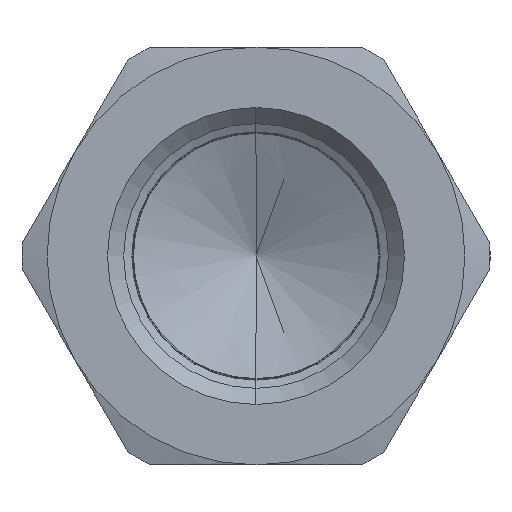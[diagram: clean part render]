
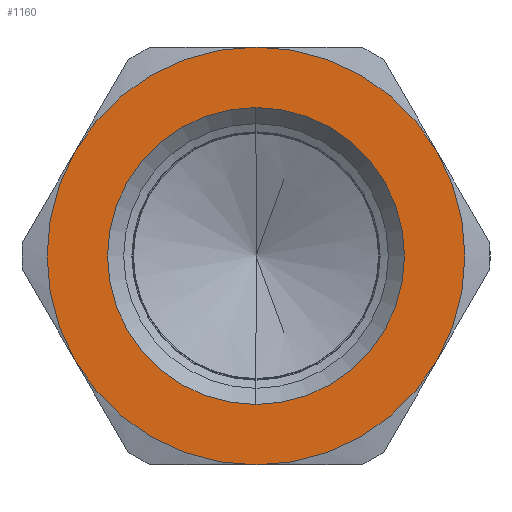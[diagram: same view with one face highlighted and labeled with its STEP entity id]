
A CAD part, left-side view. The second image highlights one B-rep face of the part: STEP entity #1160.
In plain terms, the highlighted planar face has unit normal (-1, 0, 0).
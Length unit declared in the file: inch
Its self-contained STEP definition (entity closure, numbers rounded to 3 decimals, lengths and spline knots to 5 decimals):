
#560 = EDGE_CURVE ( 'NONE', #9699, #9711, #14918, .T. ) ;
#1030 = EDGE_CURVE ( 'NONE', #9711, #9699, #6440, .T. ) ;
#1031 = EDGE_CURVE ( 'NONE', #2523, #2632, #6445, .T. ) ;
#1032 = EDGE_CURVE ( 'NONE', #2632, #2621, #6429, .T. ) ;
#1033 = EDGE_CURVE ( 'NONE', #2621, #2562, #6453, .T. ) ;
#1034 = EDGE_CURVE ( 'NONE', #2562, #2603, #6460, .T. ) ;
#1035 = EDGE_CURVE ( 'NONE', #2603, #2628, #6489, .T. ) ;
#1036 = EDGE_CURVE ( 'NONE', #2628, #2523, #6479, .T. ) ;
#1160 = ADVANCED_FACE ( 'NONE', ( #12061, #12062 ), #12063, .F. ) ;
#1410 = AXIS2_PLACEMENT_3D ( 'NONE', #12058, #12065, #12066 ) ;
#1716 = EDGE_LOOP ( 'NONE', ( #2239, #2240 ) ) ;
#1720 = EDGE_LOOP ( 'NONE', ( #2233, #2234, #2235, #2236, #2237, #2238 ) ) ;
#2233 = ORIENTED_EDGE ( 'NONE', *, *, #1031, .T. ) ;
#2234 = ORIENTED_EDGE ( 'NONE', *, *, #1032, .T. ) ;
#2235 = ORIENTED_EDGE ( 'NONE', *, *, #1033, .T. ) ;
#2236 = ORIENTED_EDGE ( 'NONE', *, *, #1034, .T. ) ;
#2237 = ORIENTED_EDGE ( 'NONE', *, *, #1035, .T. ) ;
#2238 = ORIENTED_EDGE ( 'NONE', *, *, #1036, .T. ) ;
#2239 = ORIENTED_EDGE ( 'NONE', *, *, #1030, .F. ) ;
#2240 = ORIENTED_EDGE ( 'NONE', *, *, #560, .F. ) ;
#2523 = VERTEX_POINT ( 'NONE', #12651 ) ;
#2562 = VERTEX_POINT ( 'NONE', #12689 ) ;
#2603 = VERTEX_POINT ( 'NONE', #12730 ) ;
#2621 = VERTEX_POINT ( 'NONE', #12748 ) ;
#2628 = VERTEX_POINT ( 'NONE', #12755 ) ;
#2632 = VERTEX_POINT ( 'NONE', #12759 ) ;
#6429 = CIRCLE ( 'NONE', #6458, 0.375 ) ;
#6440 = CIRCLE ( 'NONE', #6451, 0.26649 ) ;
#6445 = CIRCLE ( 'NONE', #6455, 0.375 ) ;
#6451 = AXIS2_PLACEMENT_3D ( 'NONE', #11324, #11325, #11326 ) ;
#6453 = CIRCLE ( 'NONE', #6493, 0.375 ) ;
#6455 = AXIS2_PLACEMENT_3D ( 'NONE', #11327, #11328, #11329 ) ;
#6458 = AXIS2_PLACEMENT_3D ( 'NONE', #11330, #11331, #11332 ) ;
#6460 = CIRCLE ( 'NONE', #6481, 0.375 ) ;
#6475 = AXIS2_PLACEMENT_3D ( 'NONE', #11344, #11345, #11346 ) ;
#6477 = AXIS2_PLACEMENT_3D ( 'NONE', #11339, #11340, #11341 ) ;
#6479 = CIRCLE ( 'NONE', #6475, 0.375 ) ;
#6481 = AXIS2_PLACEMENT_3D ( 'NONE', #11336, #11337, #11338 ) ;
#6489 = CIRCLE ( 'NONE', #6477, 0.375 ) ;
#6493 = AXIS2_PLACEMENT_3D ( 'NONE', #11333, #11334, #11335 ) ;
#8645 = CARTESIAN_POINT ( 'NONE',  ( 0., 0., 0. ) ) ;
#8646 = DIRECTION ( 'NONE',  ( -1., 0., 0. ) ) ;
#8647 = DIRECTION ( 'NONE',  ( 0., 0., 1. ) ) ;
#9699 = VERTEX_POINT ( 'NONE', #14180 ) ;
#9711 = VERTEX_POINT ( 'NONE', #14192 ) ;
#11324 = CARTESIAN_POINT ( 'NONE',  ( 0., 0., 0. ) ) ;
#11325 = DIRECTION ( 'NONE',  ( -1., 0., 0. ) ) ;
#11326 = DIRECTION ( 'NONE',  ( 0., 0., 1. ) ) ;
#11327 = CARTESIAN_POINT ( 'NONE',  ( 0., 0., 0. ) ) ;
#11328 = DIRECTION ( 'NONE',  ( -1., 0., 0. ) ) ;
#11329 = DIRECTION ( 'NONE',  ( 0., 0., -1. ) ) ;
#11330 = CARTESIAN_POINT ( 'NONE',  ( 0., 0., 0. ) ) ;
#11331 = DIRECTION ( 'NONE',  ( -1., 0., 0. ) ) ;
#11332 = DIRECTION ( 'NONE',  ( 0., 0., -1. ) ) ;
#11333 = CARTESIAN_POINT ( 'NONE',  ( 0., 0., 0. ) ) ;
#11334 = DIRECTION ( 'NONE',  ( -1., 0., 0. ) ) ;
#11335 = DIRECTION ( 'NONE',  ( 0., 0., -1. ) ) ;
#11336 = CARTESIAN_POINT ( 'NONE',  ( 0., 0., 0. ) ) ;
#11337 = DIRECTION ( 'NONE',  ( -1., 0., 0. ) ) ;
#11338 = DIRECTION ( 'NONE',  ( 0., 0., -1. ) ) ;
#11339 = CARTESIAN_POINT ( 'NONE',  ( 0., 0., 0. ) ) ;
#11340 = DIRECTION ( 'NONE',  ( -1., 0., 0. ) ) ;
#11341 = DIRECTION ( 'NONE',  ( 0., 0., -1. ) ) ;
#11344 = CARTESIAN_POINT ( 'NONE',  ( 0., 0., 0. ) ) ;
#11345 = DIRECTION ( 'NONE',  ( -1., 0., 0. ) ) ;
#11346 = DIRECTION ( 'NONE',  ( 0., 0., -1. ) ) ;
#12058 = CARTESIAN_POINT ( 'NONE',  ( 0., 0.43301, 0. ) ) ;
#12061 = FACE_OUTER_BOUND ( 'NONE', #1720, .T. ) ;
#12062 = FACE_BOUND ( 'NONE', #1716, .T. ) ;
#12063 = PLANE ( 'NONE',  #1410 ) ;
#12065 = DIRECTION ( 'NONE',  ( 1., 0., 0. ) ) ;
#12066 = DIRECTION ( 'NONE',  ( 0., 0., -1. ) ) ;
#12651 = CARTESIAN_POINT ( 'NONE',  ( 0., -0.32476, -0.1875 ) ) ;
#12689 = CARTESIAN_POINT ( 'NONE',  ( 0., 0.32476, 0.1875 ) ) ;
#12730 = CARTESIAN_POINT ( 'NONE',  ( 0., 0.32476, -0.1875 ) ) ;
#12748 = CARTESIAN_POINT ( 'NONE',  ( 0., 0., 0.375 ) ) ;
#12755 = CARTESIAN_POINT ( 'NONE',  ( 0., 0., -0.375 ) ) ;
#12759 = CARTESIAN_POINT ( 'NONE',  ( 0., -0.32476, 0.1875 ) ) ;
#14180 = CARTESIAN_POINT ( 'NONE',  ( 0., 0., -0.26649 ) ) ;
#14192 = CARTESIAN_POINT ( 'NONE',  ( 0., 0., 0.26649 ) ) ;
#14918 = CIRCLE ( 'NONE', #14922, 0.26649 ) ;
#14922 = AXIS2_PLACEMENT_3D ( 'NONE', #8645, #8646, #8647 ) ;
